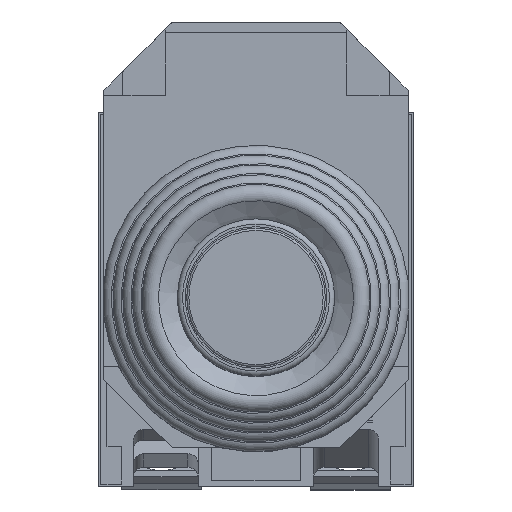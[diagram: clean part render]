
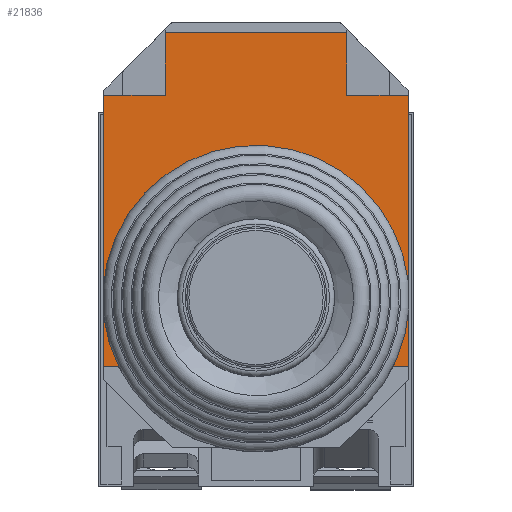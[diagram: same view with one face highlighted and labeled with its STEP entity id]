
A CAD part, top view. The second image highlights one B-rep face of the part: STEP entity #21836.
In plain terms, the highlighted planar face has unit normal (0, 0, 1).
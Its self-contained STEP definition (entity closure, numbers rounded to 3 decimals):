
#20454=CARTESIAN_POINT('',(-10.269,-6.4,-11.));
#20455=VERTEX_POINT('',#20454);
#20462=CARTESIAN_POINT('',(-14.5,-6.4,-11.));
#20463=VERTEX_POINT('',#20462);
#20464=CARTESIAN_POINT('',(-14.5,-6.4,-11.));
#20465=DIRECTION('',(1.0,0.0,0.0));
#20466=VECTOR('',#20465,4.231);
#20467=LINE('',#20464,#20466);
#20468=EDGE_CURVE('',#20463,#20455,#20467,.T.);
#20484=CARTESIAN_POINT('',(10.269,-6.4,-11.));
#20485=VERTEX_POINT('',#20484);
#20486=CARTESIAN_POINT('',(0.,0.,-11.));
#20487=DIRECTION('',(0.,0.,1.));
#20488=DIRECTION('',(-0.849,-0.529,0.));
#20489=AXIS2_PLACEMENT_3D('',#20486,#20487,#20488);
#20490=CIRCLE('',#20489,12.1);
#20491=EDGE_CURVE('',#20455,#20485,#20490,.T.);
#20519=CARTESIAN_POINT('',(-8.65,19.4,-11.));
#20520=VERTEX_POINT('',#20519);
#20527=CARTESIAN_POINT('',(-8.65,25.4,-11.));
#20528=VERTEX_POINT('',#20527);
#20529=CARTESIAN_POINT('',(-8.65,19.4,-11.));
#20530=DIRECTION('',(0.0,1.0,0.0));
#20531=VECTOR('',#20530,6.0);
#20532=LINE('',#20529,#20531);
#20533=EDGE_CURVE('',#20520,#20528,#20532,.T.);
#20800=CARTESIAN_POINT('',(8.65,25.4,-11.));
#20801=VERTEX_POINT('',#20800);
#20802=CARTESIAN_POINT('',(-8.65,25.4,-11.));
#20803=DIRECTION('',(1.0,0.0,0.0));
#20804=VECTOR('',#20803,17.3);
#20805=LINE('',#20802,#20804);
#20806=EDGE_CURVE('',#20528,#20801,#20805,.T.);
#20824=CARTESIAN_POINT('',(8.65,19.4,-11.));
#20825=VERTEX_POINT('',#20824);
#20841=CARTESIAN_POINT('',(8.65,25.4,-11.));
#20842=DIRECTION('',(0.0,-1.0,0.0));
#20843=VECTOR('',#20842,6.);
#20844=LINE('',#20841,#20843);
#20845=EDGE_CURVE('',#20801,#20825,#20844,.T.);
#21112=CARTESIAN_POINT('',(-14.5,19.4,-11.));
#21113=VERTEX_POINT('',#21112);
#21120=CARTESIAN_POINT('',(-8.65,19.4,-11.));
#21121=DIRECTION('',(-1.0,0.0,0.0));
#21122=VECTOR('',#21121,5.85);
#21123=LINE('',#21120,#21122);
#21124=EDGE_CURVE('',#20520,#21113,#21123,.T.);
#21475=CARTESIAN_POINT('',(10.6,0.,-11.));
#21476=VERTEX_POINT('',#21475);
#21477=CARTESIAN_POINT('',(0.,0.,-11.));
#21478=DIRECTION('',(0.0,0.0,1.0));
#21479=DIRECTION('',(-1.0,0.0,0.0));
#21480=AXIS2_PLACEMENT_3D('',#21477,#21478,#21479);
#21481=CIRCLE('',#21480,10.6);
#21482=EDGE_CURVE('',#21476,#21476,#21481,.T.);
#21513=CARTESIAN_POINT('',(14.5,-6.4,-11.));
#21514=VERTEX_POINT('',#21513);
#21521=CARTESIAN_POINT('',(10.269,-6.4,-11.));
#21522=DIRECTION('',(1.0,0.0,0.0));
#21523=VECTOR('',#21522,4.231);
#21524=LINE('',#21521,#21523);
#21525=EDGE_CURVE('',#20485,#21514,#21524,.T.);
#21677=CARTESIAN_POINT('',(14.5,19.4,-11.));
#21678=VERTEX_POINT('',#21677);
#21679=CARTESIAN_POINT('',(14.5,19.4,-11.));
#21680=DIRECTION('',(0.0,-1.0,0.0));
#21681=VECTOR('',#21680,25.8);
#21682=LINE('',#21679,#21681);
#21683=EDGE_CURVE('',#21678,#21514,#21682,.T.);
#21731=CARTESIAN_POINT('',(-14.5,-6.4,-11.));
#21732=DIRECTION('',(0.0,1.0,0.0));
#21733=VECTOR('',#21732,25.8);
#21734=LINE('',#21731,#21733);
#21735=EDGE_CURVE('',#20463,#21113,#21734,.T.);
#21811=CARTESIAN_POINT('',(0.,6.15,-11.));
#21812=DIRECTION('',(0.0,0.0,1.0));
#21813=DIRECTION('',(1.0,0.0,0.0));
#21814=AXIS2_PLACEMENT_3D('',#21811,#21812,#21813);
#21815=PLANE('',#21814);
#21816=ORIENTED_EDGE('',*,*,#20806,.F.);
#21817=ORIENTED_EDGE('',*,*,#20533,.F.);
#21818=ORIENTED_EDGE('',*,*,#21124,.T.);
#21819=ORIENTED_EDGE('',*,*,#21735,.F.);
#21820=ORIENTED_EDGE('',*,*,#20468,.T.);
#21821=ORIENTED_EDGE('',*,*,#20491,.T.);
#21822=ORIENTED_EDGE('',*,*,#21525,.T.);
#21823=ORIENTED_EDGE('',*,*,#21683,.F.);
#21824=CARTESIAN_POINT('',(14.5,19.4,-11.));
#21825=DIRECTION('',(-1.0,0.0,0.0));
#21826=VECTOR('',#21825,5.85);
#21827=LINE('',#21824,#21826);
#21828=EDGE_CURVE('',#21678,#20825,#21827,.T.);
#21829=ORIENTED_EDGE('',*,*,#21828,.T.);
#21830=ORIENTED_EDGE('',*,*,#20845,.F.);
#21831=EDGE_LOOP('',(#21816,#21817,#21818,#21819,#21820,#21821,#21822,#21823,#21829,#21830));
#21832=FACE_OUTER_BOUND('',#21831,.T.);
#21833=ORIENTED_EDGE('',*,*,#21482,.F.);
#21834=EDGE_LOOP('',(#21833));
#21835=FACE_BOUND('',#21834,.T.);
#21836=ADVANCED_FACE('',(#21832,#21835),#21815,.T.);
